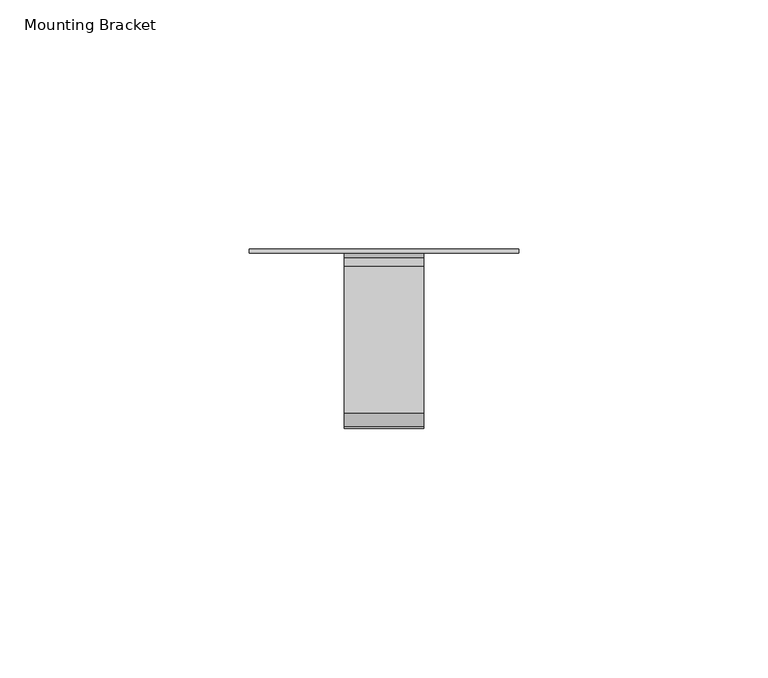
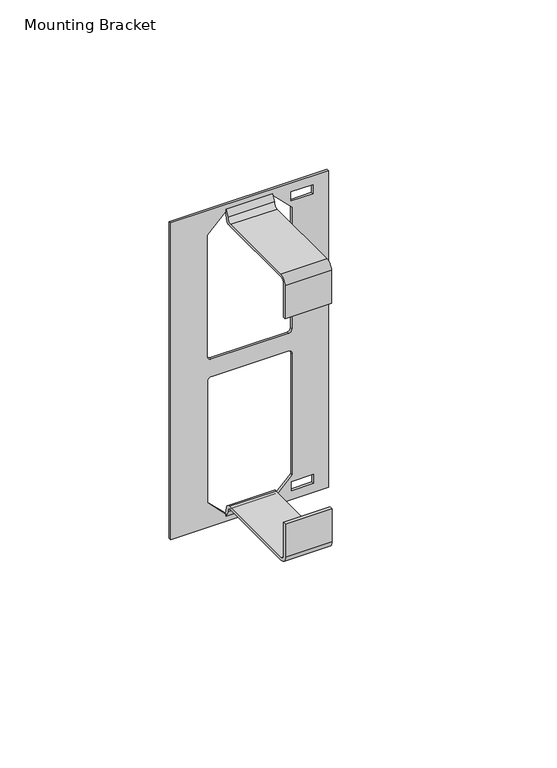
"""IFC4 building model written with IfcOpenShell, lengths in millimetres: proxy geometry, Accessory-Wiremold-Receptacle_Mounting_Bracket : Mounting Bracket."""

from ifc_helpers import new_model, si_unit, point, frame, frame_2d, origin, place, context, project, spatial, polyline, circle_curve, trimmed, segment, composite_curve, outline, extrude, source, transform, mapped, element, save


def mounting_bracket_429aca47(model_context):
    return source(origin(), model_context, "Body", "SweptSolid", [
        extrude(outline(composite_curve([segment(trimmed(circle_curve(frame_2d((-2.6227652, 110.2665299)), 1.5979608), [point((-2.6227652, 108.6685691))], [point((-1.0248044, 110.2665299))], True, "CARTESIAN"), True, "CONTINUOUS"), segment(polyline([(-1.0248044, 110.2665299), (0.0, 112.5682783), (0.3857174, 111.7468658), (-0.099562, 109.3412875)]), True, "CONTINUOUS"), segment(trimmed(circle_curve(frame_2d((-1.9590957, 109.7164129)), 1.8969935), [point((-0.099562, 109.3412875))], [point((-1.9590957, 107.8194194))], False, "CARTESIAN"), True, "CONTINUOUS"), segment(polyline([(-1.9590957, 107.8194194), (-32.3643443, 107.8194194)]), True, "CONTINUOUS"), segment(trimmed(circle_curve(frame_2d((-32.3643443, 106.2385554)), 1.580864), [point((-32.3643443, 107.8194194))], [point((-33.9452083, 106.2385554))], True, "CARTESIAN"), True, "CONTINUOUS"), segment(polyline([(-33.9452083, 106.2385554), (-33.9452083, 94.1708601), (-34.7377201, 94.1708601), (-34.7377201, 106.0437859)]), True, "CONTINUOUS"), segment(trimmed(circle_curve(frame_2d((-32.1129369, 106.0437859)), 2.6247832), [point((-34.7377201, 106.0437859))], [point((-32.1129369, 108.6685691))], False, "CARTESIAN"), True, "CONTINUOUS"), segment(polyline([(-32.1129369, 108.6685691), (-2.6227652, 108.6685691)]), True, "CONTINUOUS")], self_intersect=False)), frame((-7.9375, 0.0, 0.0), z_axis=(1.0, 0.0, 0.0), x_axis=(0.0, 1.0, 0.0)), (0.0, 0.0, 1.0), 15.875),
        extrude(outline(composite_curve([segment(polyline([(-2.6227652, 5.699177), (-32.4986543, 5.699177)]), True, "CONTINUOUS"), segment(trimmed(circle_curve(frame_2d((-32.4986543, 8.3239603)), 2.6247832), [point((-32.4986543, 5.699177))], [point((-35.1234375, 8.3239603))], False, "CARTESIAN"), True, "CONTINUOUS"), segment(polyline([(-35.1234375, 8.3239603), (-35.1234375, 20.196886), (-33.9452083, 20.196886), (-33.9452083, 8.1291907)]), True, "CONTINUOUS"), segment(trimmed(circle_curve(frame_2d((-32.3643443, 8.1291907)), 1.580864), [point((-33.9452083, 8.1291907))], [point((-32.3643443, 6.5483268))], True, "CARTESIAN"), True, "CONTINUOUS"), segment(polyline([(-32.3643443, 6.5483268), (-1.9590957, 6.5483268)]), True, "CONTINUOUS"), segment(trimmed(circle_curve(frame_2d((-1.9590957, 4.6513333)), 1.8969935), [point((-1.9590957, 6.5483268))], [point((-0.099562, 5.0264586))], False, "CARTESIAN"), True, "CONTINUOUS"), segment(polyline([(-0.099562, 5.0264586), (0.3857174, 2.6208804), (0.0, 1.7994679), (-1.0248044, 4.1012162)]), True, "CONTINUOUS"), segment(trimmed(circle_curve(frame_2d((-2.6227652, 4.1012162)), 1.5979608), [point((-1.0248044, 4.1012162))], [point((-2.6227652, 5.699177))], True, "CARTESIAN"), True, "CONTINUOUS")], self_intersect=False)), frame((-7.9375, 0.0, 0.0), z_axis=(1.0, 0.0, 0.0), x_axis=(0.0, 1.0, 0.0)), (0.0, 0.0, 1.0), 15.875),
        extrude(outline(polyline([(114.3, 26.9875), (114.3, -26.9875), (0.0, -26.9875), (0.0, 26.9875), (114.3, 26.9875)]), holes=[composite_curve([segment(polyline([(111.7468658, -8.0086395), (111.7468658, 8.0958737), (105.3684264, 14.4743131), (61.5542986, 14.4743131)]), True, "CONTINUOUS"), segment(trimmed(circle_curve(frame_2d((61.5542986, 13.2836881)), 1.190625), [point((61.5542986, 14.4743131))], [point((60.3636736, 13.2836881))], True, "CARTESIAN"), True, "CONTINUOUS"), segment(polyline([(60.3636736, 13.2836881), (60.3636736, -13.0809133)]), True, "CONTINUOUS"), segment(trimmed(circle_curve(frame_2d((61.5542986, -13.0809133)), 1.190625), [point((60.3636736, -13.0809133))], [point((61.5542986, -14.2715383))], True, "CARTESIAN"), True, "CONTINUOUS"), segment(polyline([(61.5542986, -14.2715383), (105.483967, -14.2715383), (111.7468658, -8.0086395)]), True, "CONTINUOUS")], self_intersect=False), polyline([(111.0228534, 14.2843618), (111.0228534, 21.7269722), (107.7966933, 21.7269722), (107.7966933, 14.2843618), (111.0228534, 14.2843618)]), composite_curve([segment(trimmed(circle_curve(frame_2d((52.4999883, 13.1393624)), 1.4363381), [point((53.9363264, 13.1393624))], [point((52.4999883, 14.5757005))], True, "CARTESIAN"), True, "CONTINUOUS"), segment(polyline([(52.4999883, 14.5757005), (8.9315736, 14.5757005), (2.5531342, 8.1972611), (2.5531342, -7.9072521), (8.816033, -14.1701509), (52.7027631, -14.1701509)]), True, "CONTINUOUS"), segment(trimmed(circle_curve(frame_2d((52.7027631, -12.9365876)), 1.2335634), [point((52.7027631, -14.1701509))], [point((53.9363264, -12.9365876))], True, "CARTESIAN"), True, "CONTINUOUS"), segment(polyline([(53.9363264, -12.9365876), (53.9363264, 13.1393624)]), True, "CONTINUOUS")], self_intersect=False), polyline([(6.5033067, 14.3857492), (6.5033067, 21.8283596), (3.2771466, 21.8283596), (3.2771466, 14.3857492), (6.5033067, 14.3857492)])]), frame((0.0, 0.0, 0.0), z_axis=(0.0, 1.0, 0.0), x_axis=(0.0, 0.0, 1.0)), (0.0, 0.0, 1.0), 0.79375),
    ])


if __name__ == "__main__":
    model = new_model("IFC4")
    model_context = context("Model", 3, world=origin())
    ifc_project = project(units=[si_unit("LENGTHUNIT", "METRE", prefix="MILLI")], contexts=[model_context])
    site = spatial("IfcSite", under=ifc_project)
    building = spatial("IfcBuilding", under=site)
    placement = place(None, origin())
    mounting_bracket_shape = mounting_bracket_429aca47(model_context)
    element("IfcBuildingElementProxy", 1, Name="Accessory-Wiremold-Receptacle_Mounting_Bracket : Mounting Bracket", ObjectType="Accessory-Wiremold-Receptacle_Mounting_Bracket : Mounting Bracket", at=placement, inside=building, context=model_context, shape_type="MappedRepresentation", body=[
        mapped(mounting_bracket_shape, transform((0.0, 0.0, 0.0), x_axis=(1.0, 0.0, 0.0), y_axis=(0.0, 1.0, 0.0), z_axis=(0.0, 0.0, 1.0))),
    ])
    save(model, "model.ifc")
